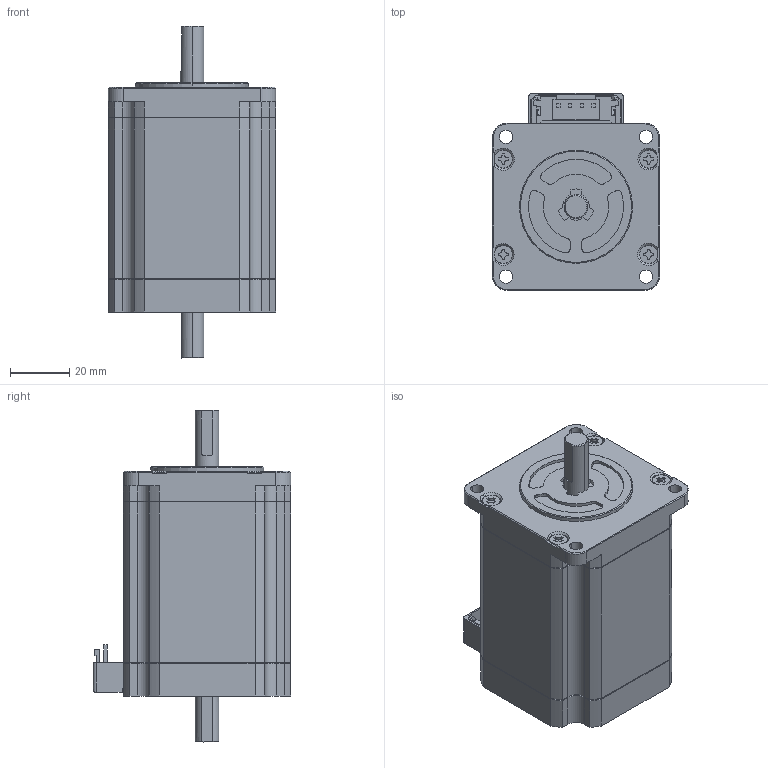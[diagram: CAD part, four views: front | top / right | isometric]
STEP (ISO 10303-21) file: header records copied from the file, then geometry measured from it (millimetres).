
FILE_DESCRIPTION (( 'STEP AP203' ), '1' );
FILE_NAME ('SM2563C10B11.STEP', '2021-05-07T07:24:40', ( '' ), ( '' ), 'SwSTEP 2.0', 'SolidWorks 2019', '' );
FILE_SCHEMA (( 'CONFIG_CONTROL_DESIGN' ));
Length unit declared in the file: millimetre
Products named in the file (11): Copy of REAR COVER^01124148; Copy of STATOR^01124148; Copy of OUTPUT SHAFT^01124148; Copy of SUBSTRATE^Copy of TERMINAL_01124148; Copy of COUNTER SHAFT^01124148; Copy of FRONT COVER^01124148; Copy of TERMINAL^01124148; Copy of SCREW^01124148; SM2563C10B11; Copy of INSULATOR_REAR^01124148_コネクタタイプ（10.1L）; Copy of CONNECTOR^Copy of TERMINAL_01124148
Assembly tree (13 placements, depth 3):
  SM2563C10B11
    Copy of FRONT COVER^01124148
    Copy of STATOR^01124148
    Copy of INSULATOR_REAR^01124148_コネクタタイプ（10.1L）
    Copy of TERMINAL^01124148
      Copy of SUBSTRATE^Copy of TERMINAL_01124148
      Copy of CONNECTOR^Copy of TERMINAL_01124148
    Copy of REAR COVER^01124148
    Copy of COUNTER SHAFT^01124148
    Copy of OUTPUT SHAFT^01124148
    Copy of SCREW^01124148  x4
Bounding box: 56.4 x 66.6 x 111.9 mm (x, y, z)
Volume: 237301.2 mm3; surface area: 45139.7 mm2
Topology: 12 solids, 12 shells, 615 faces, 1599 edges, 1030 vertices
Faces by surface type: plane 385, cylinder 158, cone 72
Entity records: 17961 total; most frequent: CARTESIAN_POINT 3057, DIRECTION 2853, ORIENTED_EDGE 2850, EDGE_CURVE 1425, LINE 1021, VECTOR 1021, VERTEX_POINT 916, AXIS2_PLACEMENT_3D 916
